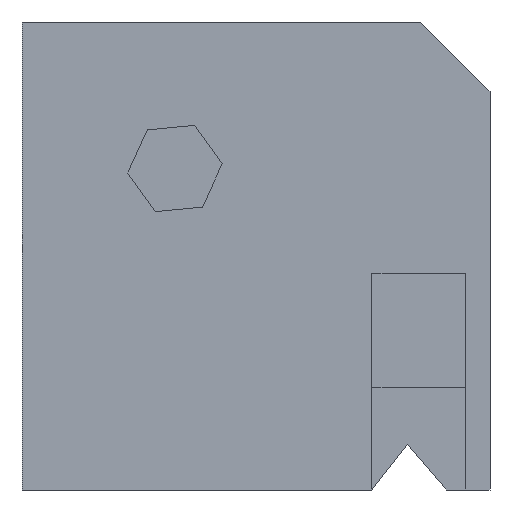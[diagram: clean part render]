
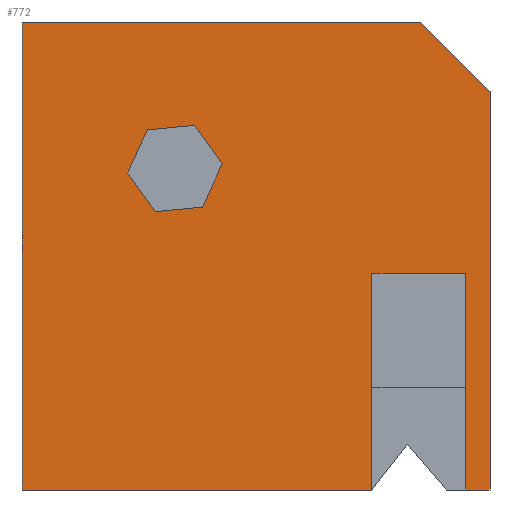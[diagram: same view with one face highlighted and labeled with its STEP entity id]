
A CAD part, left-side view. The second image highlights one B-rep face of the part: STEP entity #772.
In plain terms, the highlighted planar face has unit normal (-1, 0, 0).
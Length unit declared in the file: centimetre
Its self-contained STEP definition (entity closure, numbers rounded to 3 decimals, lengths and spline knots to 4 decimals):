
#5 = LINE ( 'NONE', #521, #129 ) ;
#32 = DIRECTION ( 'NONE',  ( 1., 0., 0. ) ) ;
#38 = LINE ( 'NONE', #435, #242 ) ;
#43 = CARTESIAN_POINT ( 'NONE',  ( 0., 252.3442, 463.1119 ) ) ;
#51 = CARTESIAN_POINT ( 'NONE',  ( 0., 252.3442, 0. ) ) ;
#58 = CARTESIAN_POINT ( 'NONE',  ( 0., 0., 0. ) ) ;
#67 = CARTESIAN_POINT ( 'NONE',  ( 0., 731.9236, 769.4841 ) ) ;
#80 = CARTESIAN_POINT ( 'NONE',  ( 0., 731.9236, 769.4841 ) ) ;
#87 = CARTESIAN_POINT ( 'NONE',  ( 0., 252.3442, 463.1119 ) ) ;
#89 = EDGE_LOOP ( 'NONE', ( #1084, #1082, #1120, #1193, #1302, #371 ) ) ;
#90 = LINE ( 'NONE', #906, #484 ) ;
#113 = DIRECTION ( 'NONE',  ( 0., 0., -1. ) ) ;
#120 = CARTESIAN_POINT ( 'NONE',  ( 0., 51.6026, 463.1119 ) ) ;
#129 = VECTOR ( 'NONE', #420, 100. ) ;
#138 = LINE ( 'NONE', #1267, #1142 ) ;
#143 = CARTESIAN_POINT ( 'NONE',  ( 0., 715.1918, 594.8746 ) ) ;
#150 = DIRECTION ( 'NONE',  ( 0., 1., 0. ) ) ;
#241 = ORIENTED_EDGE ( 'NONE', *, *, #388, .T. ) ;
#242 = VECTOR ( 'NONE', #839, 100. ) ;
#270 = ORIENTED_EDGE ( 'NONE', *, *, #1061, .F. ) ;
#273 = ORIENTED_EDGE ( 'NONE', *, *, #1236, .T. ) ;
#277 = CARTESIAN_POINT ( 'NONE',  ( 0., 51.6026, 0. ) ) ;
#291 = VECTOR ( 'NONE', #948, 100. ) ;
#295 = VERTEX_POINT ( 'NONE', #143 ) ;
#300 = ORIENTED_EDGE ( 'NONE', *, *, #1113, .T. ) ;
#312 = DIRECTION ( 'NONE',  ( 0., -0.415, 0.91 ) ) ;
#335 = EDGE_CURVE ( 'NONE', #774, #387, #138, .T. ) ;
#348 = CARTESIAN_POINT ( 'NONE',  ( 0., 51.6026, 463.1119 ) ) ;
#349 = DIRECTION ( 'NONE',  ( 0., 0.58, 0.814 ) ) ;
#371 = ORIENTED_EDGE ( 'NONE', *, *, #1042, .F. ) ;
#379 = VECTOR ( 'NONE', #691, 100. ) ;
#387 = VERTEX_POINT ( 'NONE', #960 ) ;
#388 = EDGE_CURVE ( 'NONE', #932, #1292, #1043, .T. ) ;
#391 = EDGE_CURVE ( 'NONE', #826, #1244, #38, .T. ) ;
#401 = DIRECTION ( 'NONE',  ( 0., 0., -1. ) ) ;
#407 = CARTESIAN_POINT ( 'NONE',  ( 0., 614.381, 604.5347 ) ) ;
#420 = DIRECTION ( 'NONE',  ( 0., 0.995, -0.095 ) ) ;
#423 = VECTOR ( 'NONE', #983, 100. ) ;
#425 = VECTOR ( 'NONE', #150, 100. ) ;
#429 = PLANE ( 'NONE',  #753 ) ;
#435 = CARTESIAN_POINT ( 'NONE',  ( 0., 1000., 0. ) ) ;
#443 = DIRECTION ( 'NONE',  ( 0., 0.415, -0.91 ) ) ;
#465 = CARTESIAN_POINT ( 'NONE',  ( 0., 1000., 1000. ) ) ;
#484 = VECTOR ( 'NONE', #799, 100. ) ;
#490 = VERTEX_POINT ( 'NONE', #43 ) ;
#507 = EDGE_CURVE ( 'NONE', #771, #490, #1175, .T. ) ;
#517 = CARTESIAN_POINT ( 'NONE',  ( 0., 0., 1000. ) ) ;
#521 = CARTESIAN_POINT ( 'NONE',  ( 0., 631.1128, 779.1442 ) ) ;
#532 = VECTOR ( 'NONE', #659, 100. ) ;
#541 = CARTESIAN_POINT ( 'NONE',  ( 0., 1000., 1000. ) ) ;
#544 = ORIENTED_EDGE ( 'NONE', *, *, #391, .T. ) ;
#614 = DIRECTION ( 'NONE',  ( 0., 0., -1. ) ) ;
#620 = VECTOR ( 'NONE', #1030, 100. ) ;
#622 = EDGE_CURVE ( 'NONE', #490, #892, #795, .T. ) ;
#625 = FACE_OUTER_BOUND ( 'NONE', #794, .T. ) ;
#627 = LINE ( 'NONE', #517, #620 ) ;
#629 = FACE_BOUND ( 'NONE', #89, .T. ) ;
#649 = CARTESIAN_POINT ( 'NONE',  ( 0., 1000., 0. ) ) ;
#659 = DIRECTION ( 'NONE',  ( 0., -1., 0. ) ) ;
#664 = ORIENTED_EDGE ( 'NONE', *, *, #622, .F. ) ;
#675 = CARTESIAN_POINT ( 'NONE',  ( 0., 149., 1000. ) ) ;
#691 = DIRECTION ( 'NONE',  ( 0., -0.58, -0.814 ) ) ;
#714 = CARTESIAN_POINT ( 'NONE',  ( 0., 572.3415, 696.6695 ) ) ;
#726 = CARTESIAN_POINT ( 'NONE',  ( 0., 773.9631, 677.3493 ) ) ;
#732 = ORIENTED_EDGE ( 'NONE', *, *, #507, .F. ) ;
#734 = LINE ( 'NONE', #1139, #1020 ) ;
#739 = VECTOR ( 'NONE', #614, 100. ) ;
#753 = AXIS2_PLACEMENT_3D ( 'NONE', #941, #32, #113 ) ;
#754 = VECTOR ( 'NONE', #443, 100. ) ;
#759 = LINE ( 'NONE', #80, #754 ) ;
#762 = CARTESIAN_POINT ( 'NONE',  ( 0., 1000., 1000. ) ) ;
#765 = VERTEX_POINT ( 'NONE', #726 ) ;
#771 = VERTEX_POINT ( 'NONE', #921 ) ;
#772 = ADVANCED_FACE ( 'NONE', ( #629, #625 ), #429, .F. ) ;
#774 = VERTEX_POINT ( 'NONE', #714 ) ;
#794 = EDGE_LOOP ( 'NONE', ( #732, #300, #544, #270, #1090, #1145, #241, #273, #664 ) ) ;
#795 = LINE ( 'NONE', #87, #739 ) ;
#799 = DIRECTION ( 'NONE',  ( 0., -0.995, 0.095 ) ) ;
#801 = VERTEX_POINT ( 'NONE', #818 ) ;
#818 = CARTESIAN_POINT ( 'NONE',  ( 0., 0., 851. ) ) ;
#826 = VERTEX_POINT ( 'NONE', #277 ) ;
#839 = DIRECTION ( 'NONE',  ( 0., -1., 0. ) ) ;
#843 = EDGE_CURVE ( 'NONE', #1187, #774, #1214, .T. ) ;
#879 = VERTEX_POINT ( 'NONE', #67 ) ;
#892 = VERTEX_POINT ( 'NONE', #51 ) ;
#894 = LINE ( 'NONE', #675, #423 ) ;
#906 = CARTESIAN_POINT ( 'NONE',  ( 0., 715.1918, 594.8746 ) ) ;
#921 = CARTESIAN_POINT ( 'NONE',  ( 0., 51.6026, 463.1119 ) ) ;
#932 = VERTEX_POINT ( 'NONE', #762 ) ;
#933 = EDGE_CURVE ( 'NONE', #932, #1285, #1172, .T. ) ;
#941 = CARTESIAN_POINT ( 'NONE',  ( 0., 1000., 1000. ) ) ;
#948 = DIRECTION ( 'NONE',  ( 0., 0., -1. ) ) ;
#950 = DIRECTION ( 'NONE',  ( 0., -1., 0. ) ) ;
#960 = CARTESIAN_POINT ( 'NONE',  ( 0., 631.1128, 779.1442 ) ) ;
#973 = EDGE_CURVE ( 'NONE', #295, #1187, #90, .T. ) ;
#983 = DIRECTION ( 'NONE',  ( 0., 0.707, 0.707 ) ) ;
#992 = CARTESIAN_POINT ( 'NONE',  ( 0., 614.381, 604.5347 ) ) ;
#1020 = VECTOR ( 'NONE', #950, 100. ) ;
#1030 = DIRECTION ( 'NONE',  ( 0., 0., -1. ) ) ;
#1042 = EDGE_CURVE ( 'NONE', #765, #295, #1306, .T. ) ;
#1043 = LINE ( 'NONE', #541, #291 ) ;
#1056 = VECTOR ( 'NONE', #401, 100. ) ;
#1061 = EDGE_CURVE ( 'NONE', #801, #1244, #627, .T. ) ;
#1073 = VECTOR ( 'NONE', #312, 100. ) ;
#1074 = EDGE_CURVE ( 'NONE', #387, #879, #5, .T. ) ;
#1082 = ORIENTED_EDGE ( 'NONE', *, *, #1074, .F. ) ;
#1084 = ORIENTED_EDGE ( 'NONE', *, *, #1283, .F. ) ;
#1090 = ORIENTED_EDGE ( 'NONE', *, *, #1150, .T. ) ;
#1103 = CARTESIAN_POINT ( 'NONE',  ( 0., 773.9631, 677.3493 ) ) ;
#1113 = EDGE_CURVE ( 'NONE', #771, #826, #1235, .T. ) ;
#1120 = ORIENTED_EDGE ( 'NONE', *, *, #335, .F. ) ;
#1139 = CARTESIAN_POINT ( 'NONE',  ( 0., 1000., 0. ) ) ;
#1142 = VECTOR ( 'NONE', #349, 100. ) ;
#1145 = ORIENTED_EDGE ( 'NONE', *, *, #933, .F. ) ;
#1150 = EDGE_CURVE ( 'NONE', #801, #1285, #894, .T. ) ;
#1151 = CARTESIAN_POINT ( 'NONE',  ( 0., 149., 1000. ) ) ;
#1172 = LINE ( 'NONE', #465, #532 ) ;
#1175 = LINE ( 'NONE', #348, #425 ) ;
#1187 = VERTEX_POINT ( 'NONE', #407 ) ;
#1193 = ORIENTED_EDGE ( 'NONE', *, *, #843, .F. ) ;
#1214 = LINE ( 'NONE', #992, #1073 ) ;
#1235 = LINE ( 'NONE', #120, #1056 ) ;
#1236 = EDGE_CURVE ( 'NONE', #1292, #892, #734, .T. ) ;
#1244 = VERTEX_POINT ( 'NONE', #58 ) ;
#1267 = CARTESIAN_POINT ( 'NONE',  ( 0., 572.3415, 696.6695 ) ) ;
#1283 = EDGE_CURVE ( 'NONE', #879, #765, #759, .T. ) ;
#1285 = VERTEX_POINT ( 'NONE', #1151 ) ;
#1292 = VERTEX_POINT ( 'NONE', #649 ) ;
#1302 = ORIENTED_EDGE ( 'NONE', *, *, #973, .F. ) ;
#1306 = LINE ( 'NONE', #1103, #379 ) ;
